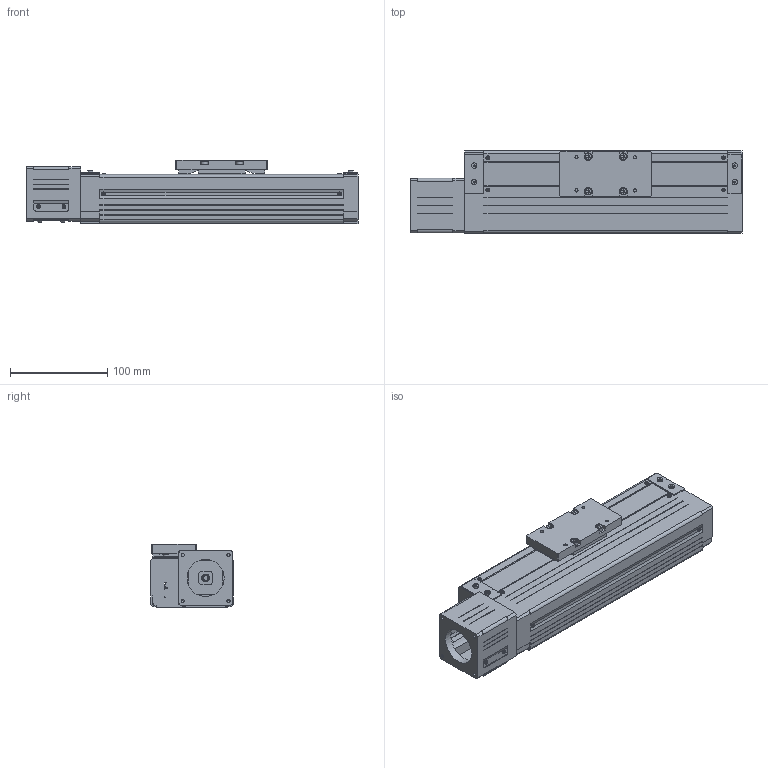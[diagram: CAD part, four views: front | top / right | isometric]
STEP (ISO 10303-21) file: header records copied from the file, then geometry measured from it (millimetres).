
FILE_DESCRIPTION((''),'2;1');
FILE_NAME('D:\製品 (図面)\カタログ用3D\SU部品\SU85×65\ダウンロード用\SU85×65-MB56\SU85×65-150-MB56.stp','2011-07-01T17:16:43',('Tsuchiya'),(''),'Autodesk Inventor 10','Autodesk Inventor 10','');
FILE_SCHEMA(('AUTOMOTIVE_DESIGN { 1 0 10303 214 1 1 1 1 }'));
Length unit declared in the file: millimetre
Products named in the file (3): SU85×65-150-MB56; SU85×65-150-MB561; SU85×65-150-MB562
Assembly tree (2 placements, depth 2):
  SU85×65-150-MB56
    SU85×65-150-MB561
    SU85×65-150-MB562
Bounding box: 341 x 85 x 65 mm (x, y, z)
Volume: 716143.3 mm3; surface area: 224033.4 mm2
Topology: 8 solids, 8 shells, 839 faces, 2204 edges, 1426 vertices
Faces by surface type: plane 713, cylinder 94, cone 16, torus 12, bspline 4
Full cylindrical faces by diameter (mm): 3.242 x8, 4 x4, 4.134 x4, 4.5 x4, 5.5 x4, 6 x1, 7 x4, 8 x1, 11.5 x1, 12 x1, 13 x1, 38.1 x1, 43 x1
Entity records: 25606 total; most frequent: CARTESIAN_POINT 5155, ORIENTED_EDGE 4216, DIRECTION 4008, EDGE_CURVE 2108, VECTOR 1712, LINE 1712, VERTEX_POINT 1397, AXIS2_PLACEMENT_3D 1148
